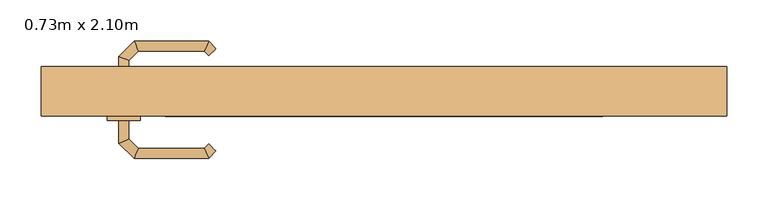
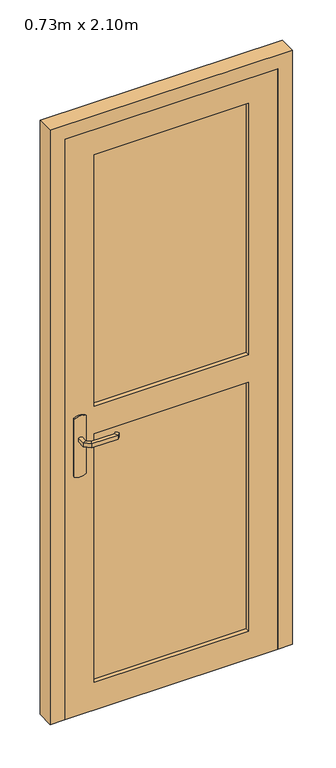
"""IFC4 building model written with IfcOpenShell, lengths in millimetres: door geometry, PVC Panneau Vitré - Traverse : 0.73m x 2.10m."""

from ifc_helpers import new_model, si_unit, point, frame, frame_2d, origin, place, context, project, spatial, polyline, circle_curve, ellipse_curve, trimmed, segment, composite_curve, outline, extrude, faceted_brep, source, transform, mapped, element, save
from ifc_brep_helpers import plane_surface, cylinder_surface, advanced_brep


def door_0_73m_x_2_10m_d47f2a6c(model_context):
    return source(origin(), model_context, "Body", "SolidModel", [
        advanced_brep(
        [(-309.0, -75.0, 993.0), (-309.0, -75.0, 1007.0), (-321.0, -75.0, 1007.0), (-321.0, -75.0, 993.0), (-309.0, -52.5147955, 993.0), (-309.0, -52.5147955, 1007.0), (-321.0, -47.5442327, 1007.0), (-321.0, -47.5442327, 993.0), (-297.5147186, -41.0295141, 993.0), (-297.5147186, -41.0295141, 1007.0), (-302.4852814, -29.0295141, 1007.0), (-302.4852814, -29.0295141, 993.0), (-217.4394977, -41.0295141, 993.0), (-217.4394977, -41.0295141, 1007.0), (-212.468935, -29.0295141, 1007.0), (-212.468935, -29.0295141, 993.0), (-212.1257892, -46.3432226, 993.0), (-203.6405078, -37.8579412, 993.0), (-203.6405078, -37.8579412, 1007.0), (-212.1257892, -46.3432226, 1007.0)],
        [
            (0, 1),
            (1, 2, circle_curve(frame((-315.0, -75.0, 986.9542278), z_axis=(0.0, -1.0, 0.0), x_axis=(-1.0, 0.0, 0.0)), 20.9244589)),
            (2, 3),
            (3, 0, circle_curve(frame((-315.0, -75.0, 1013.0457722), z_axis=(0.0, -1.0, 0.0), x_axis=(-1.0, 0.0, 0.0)), 20.9244589)),
            (0, 4),
            (4, 5),
            (5, 1),
            (5, 6, ellipse_curve(frame((-315.0, -50.0295141, 986.9542278), z_axis=(-0.38268343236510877, -0.9238795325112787, 0.0), x_axis=(0.9238795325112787, -0.3826834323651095, 0.0)), 22.6484711, 20.9244589)),
            (6, 2),
            (6, 7),
            (7, 3),
            (7, 4, ellipse_curve(frame((-315.0, -50.0295141, 1013.0457722), z_axis=(-0.38268343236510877, -0.9238795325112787, 0.0), x_axis=(0.9238795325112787, -0.3826834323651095, 0.0)), 22.6484711, 20.9244589)),
            (4, 8),
            (8, 9),
            (9, 5),
            (9, 10, ellipse_curve(frame((-300.0, -35.0295141, 986.9542278), z_axis=(-0.9238795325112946, -0.3826834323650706, 0.0), x_axis=(0.3826834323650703, -0.923879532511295, 0.0)), 22.6484711, 20.9244589)),
            (10, 6),
            (10, 11),
            (11, 7),
            (11, 8, ellipse_curve(frame((-300.0, -35.0295141, 1013.0457722), z_axis=(-0.9238795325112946, -0.3826834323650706, 0.0), x_axis=(0.3826834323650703, -0.923879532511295, 0.0)), 22.6484711, 20.9244589)),
            (8, 12),
            (12, 13),
            (13, 9),
            (13, 14, ellipse_curve(frame((-214.9542163, -35.0295141, 986.9542278), z_axis=(-0.9238795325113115, 0.38268343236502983, 0.0), x_axis=(-0.38268343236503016, -0.9238795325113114, 0.0)), 22.6484711, 20.9244589)),
            (14, 10),
            (14, 15),
            (15, 11),
            (15, 12, ellipse_curve(frame((-214.9542163, -35.0295141, 1013.0457722), z_axis=(-0.9238795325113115, 0.38268343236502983, 0.0), x_axis=(-0.38268343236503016, -0.9238795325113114, 0.0)), 22.6484711, 20.9244589)),
            (16, 17, circle_curve(frame((-207.8831485, -42.1005819, 1013.0457722), z_axis=(0.7071067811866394, -0.7071067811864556, 0.0), x_axis=(0.7071067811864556, 0.7071067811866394, 0.0)), 20.9244589)),
            (17, 18),
            (18, 19, circle_curve(frame((-207.8831485, -42.1005819, 986.9542278), z_axis=(0.7071067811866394, -0.7071067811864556, 0.0), x_axis=(0.7071067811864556, 0.7071067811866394, 0.0)), 20.9244589)),
            (19, 16),
            (12, 16),
            (19, 13),
            (18, 14),
            (17, 15),
        ],
        [
            plane_surface(frame((-324.2195445, -75.0, 1000.0), z_axis=(0.0, -1.0, 0.0), x_axis=(0.0, 0.0, 1.0))),
            plane_surface(frame((-309.0, -75.0, 993.0), z_axis=(1.0, 0.0, 0.0), x_axis=(0.0, 1.0, 0.0))),
            cylinder_surface(frame((-315.0, -75.0, 986.9542278), z_axis=(0.0, -1.0, 0.0), x_axis=(-1.0, 0.0, 0.0)), 20.9244589),
            plane_surface(frame((-321.0, -75.0, 1007.0), z_axis=(-1.0, 0.0, 0.0), x_axis=(0.0, 1.0, 0.0))),
            cylinder_surface(frame((-315.0, -75.0, 1013.0457722), z_axis=(0.0, -1.0, 0.0), x_axis=(-1.0, 0.0, 0.0)), 20.9244589),
            plane_surface(frame((-309.0, -52.5147955, 993.0), z_axis=(0.7071067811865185, -0.7071067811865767, 0.0), x_axis=(0.7071067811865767, 0.7071067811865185, 0.0))),
            cylinder_surface(frame((-315.0, -50.0295141, 986.9542278), z_axis=(-0.7071067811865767, -0.7071067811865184, 0.0), x_axis=(-0.7071067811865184, 0.7071067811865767, 0.0)), 20.9244589),
            plane_surface(frame((-321.0, -47.5442327, 1007.0), z_axis=(-0.7071067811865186, 0.7071067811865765, 0.0), x_axis=(0.7071067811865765, 0.7071067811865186, 0.0))),
            cylinder_surface(frame((-315.0, -50.0295141, 1013.0457722), z_axis=(-0.7071067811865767, -0.7071067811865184, 0.0), x_axis=(-0.7071067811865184, 0.7071067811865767, 0.0)), 20.9244589),
            plane_surface(frame((-297.5147186, -41.0295141, 993.0), z_axis=(0.0, -1.0, 0.0), x_axis=(1.0, 0.0, 0.0))),
            cylinder_surface(frame((-300.0, -35.0295141, 986.9542278), z_axis=(-1.0, 0.0, 0.0), x_axis=(0.0, 1.0, 0.0)), 20.9244589),
            plane_surface(frame((-302.4852814, -29.0295141, 1007.0), z_axis=(0.0, 1.0, 0.0), x_axis=(1.0, 0.0, 0.0))),
            cylinder_surface(frame((-300.0, -35.0295141, 1013.0457722), z_axis=(-1.0, 0.0, 0.0), x_axis=(0.0, 1.0, 0.0)), 20.9244589),
            plane_surface(frame((-207.8831485, -42.1005819, 990.7804555), z_axis=(0.7071067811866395, -0.7071067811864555, 0.0), x_axis=(0.7071067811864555, 0.7071067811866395, 0.0))),
            plane_surface(frame((-217.4394977, -41.0295141, 993.0), z_axis=(-0.7071067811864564, -0.7071067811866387, 0.0), x_axis=(0.7071067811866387, -0.7071067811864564, 0.0))),
            cylinder_surface(frame((-214.9542163, -35.0295141, 986.9542278), z_axis=(-0.7071067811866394, 0.7071067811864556, 0.0), x_axis=(0.7071067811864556, 0.7071067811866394, 0.0)), 20.9244589),
            plane_surface(frame((-212.468935, -29.0295141, 1007.0), z_axis=(0.707106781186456, 0.707106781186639, 0.0), x_axis=(0.707106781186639, -0.707106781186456, 0.0))),
            cylinder_surface(frame((-214.9542163, -35.0295141, 1013.0457722), z_axis=(-0.7071067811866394, 0.7071067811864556, 0.0), x_axis=(0.7071067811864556, 0.7071067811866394, 0.0)), 20.9244589),
        ],
        [
            (0, [[1, 2, 3, 4]]),
            (1, [[-1, 5, 6, 7]]),
            (2, [[-2, -7, 8, 9]]),
            (3, [[-3, -9, 10, 11]]),
            (4, [[-4, -11, 12, -5]]),
            (5, [[-6, 13, 14, 15]]),
            (6, [[-8, -15, 16, 17]]),
            (7, [[-10, -17, 18, 19]]),
            (8, [[-12, -19, 20, -13]]),
            (9, [[-14, 21, 22, 23]]),
            (10, [[-16, -23, 24, 25]]),
            (11, [[-18, -25, 26, 27]]),
            (12, [[-20, -27, 28, -21]]),
            (13, [[29, 30, 31, 32]]),
            (14, [[-22, 33, -32, 34]]),
            (15, [[-24, -34, -31, 35]]),
            (16, [[-26, -35, -30, 36]]),
            (17, [[-28, -36, -29, -33]]),
        ],
    ),
        advanced_brep(
        [(-321.0, -125.0, 1007.0), (-309.0, -125.0, 1007.0), (-309.0, -125.0, 993.0), (-321.0, -125.0, 993.0), (-321.0, -152.6509507, 1007.0), (-309.0, -147.680388, 1007.0), (-309.0, -147.680388, 993.0), (-321.0, -152.6509507, 993.0), (-302.62279, -171.0281607, 1007.0), (-297.6522273, -159.0281607, 1007.0), (-297.6522273, -159.0281607, 993.0), (-302.62279, -171.0281607, 993.0), (-212.496078, -171.0281607, 1007.0), (-217.4666408, -159.0281607, 1007.0), (-217.4666408, -159.0281607, 993.0), (-212.496078, -171.0281607, 993.0), (-203.6676509, -162.1997336, 1007.0), (-203.6676509, -162.1997336, 993.0), (-212.1529323, -153.7144522, 993.0), (-212.1529323, -153.7144522, 1007.0)],
        [
            (0, 1, circle_curve(frame((-315.0, -125.0, 986.9542278), z_axis=(0.0, 1.0, 0.0), x_axis=(1.0, 0.0, 0.0)), 20.9244589)),
            (1, 2),
            (2, 3, circle_curve(frame((-315.0, -125.0, 1013.0457722), z_axis=(0.0, 1.0, 0.0), x_axis=(1.0, 0.0, 0.0)), 20.9244589)),
            (3, 0),
            (0, 4),
            (4, 5, ellipse_curve(frame((-315.0, -150.1656693, 986.9542278), z_axis=(-0.3826834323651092, 0.9238795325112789, 0.0), x_axis=(0.9238795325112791, 0.3826834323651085, 0.0)), 22.6484711, 20.9244589)),
            (5, 1),
            (5, 6),
            (6, 2),
            (6, 7, ellipse_curve(frame((-315.0, -150.1656693, 1013.0457722), z_axis=(-0.3826834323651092, 0.9238795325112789, 0.0), x_axis=(0.9238795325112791, 0.3826834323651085, 0.0)), 22.6484711, 20.9244589)),
            (7, 3),
            (7, 4),
            (4, 8),
            (8, 9, ellipse_curve(frame((-300.1375086, -165.0281607, 986.9542278), z_axis=(-0.923879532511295, 0.38268343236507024, 0.0), x_axis=(0.3826834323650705, 0.9238795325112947, 0.0)), 22.6484711, 20.9244589)),
            (9, 5),
            (9, 10),
            (10, 6),
            (10, 11, ellipse_curve(frame((-300.1375086, -165.0281607, 1013.0457722), z_axis=(-0.923879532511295, 0.38268343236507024, 0.0), x_axis=(0.3826834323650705, 0.9238795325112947, 0.0)), 22.6484711, 20.9244589)),
            (11, 7),
            (11, 8),
            (8, 12),
            (12, 13, ellipse_curve(frame((-214.9813594, -165.0281607, 986.9542278), z_axis=(-0.9238795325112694, -0.38268343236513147, 0.0), x_axis=(-0.38268343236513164, 0.9238795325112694, 0.0)), 22.6484711, 20.9244589)),
            (13, 9),
            (13, 14),
            (14, 10),
            (14, 15, ellipse_curve(frame((-214.9813594, -165.0281607, 1013.0457722), z_axis=(-0.9238795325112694, -0.38268343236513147, 0.0), x_axis=(-0.38268343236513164, 0.9238795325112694, 0.0)), 22.6484711, 20.9244589)),
            (15, 11),
            (15, 12),
            (16, 17),
            (17, 18, circle_curve(frame((-207.9102916, -157.9570929, 1013.0457722), z_axis=(0.7071067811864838, 0.7071067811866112, 0.0), x_axis=(-0.7071067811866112, 0.7071067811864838, 0.0)), 20.9244589)),
            (18, 19),
            (19, 16, circle_curve(frame((-207.9102916, -157.9570929, 986.9542278), z_axis=(0.7071067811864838, 0.7071067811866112, 0.0), x_axis=(-0.7071067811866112, 0.7071067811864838, 0.0)), 20.9244589)),
            (12, 16),
            (19, 13),
            (18, 14),
            (17, 15),
        ],
        [
            plane_surface(frame((-324.2195445, -125.0, 1000.0), z_axis=(0.0, 1.0, 0.0), x_axis=(0.0, 0.0, -1.0))),
            cylinder_surface(frame((-315.0, -125.0, 986.9542278), z_axis=(0.0, 1.0, 0.0), x_axis=(1.0, 0.0, 0.0)), 20.9244589),
            plane_surface(frame((-309.0, -125.0, 1007.0), z_axis=(1.0, 0.0, 0.0), x_axis=(0.0, -1.0, 0.0))),
            cylinder_surface(frame((-315.0, -125.0, 1013.0457722), z_axis=(0.0, 1.0, 0.0), x_axis=(1.0, 0.0, 0.0)), 20.9244589),
            plane_surface(frame((-321.0, -125.0, 993.0), z_axis=(-1.0, 0.0, 0.0), x_axis=(0.0, -1.0, 0.0))),
            cylinder_surface(frame((-315.0, -150.1656693, 986.9542278), z_axis=(-0.7071067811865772, 0.7071067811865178, 0.0), x_axis=(0.7071067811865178, 0.7071067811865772, 0.0)), 20.9244589),
            plane_surface(frame((-309.0, -147.680388, 1007.0), z_axis=(0.707106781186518, 0.707106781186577, 0.0), x_axis=(0.707106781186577, -0.707106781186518, 0.0))),
            cylinder_surface(frame((-315.0, -150.1656693, 1013.0457722), z_axis=(-0.7071067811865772, 0.7071067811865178, 0.0), x_axis=(0.7071067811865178, 0.7071067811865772, 0.0)), 20.9244589),
            plane_surface(frame((-321.0, -152.6509507, 993.0), z_axis=(-0.707106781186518, -0.7071067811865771, 0.0), x_axis=(0.7071067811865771, -0.707106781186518, 0.0))),
            cylinder_surface(frame((-300.1375086, -165.0281607, 986.9542278), z_axis=(-1.0, 0.0, 0.0), x_axis=(0.0, 1.0, 0.0)), 20.9244589),
            plane_surface(frame((-297.6522273, -159.0281607, 1007.0), z_axis=(0.0, 1.0, 0.0), x_axis=(1.0, 0.0, 0.0))),
            cylinder_surface(frame((-300.1375086, -165.0281607, 1013.0457722), z_axis=(-1.0, 0.0, 0.0), x_axis=(0.0, 1.0, 0.0)), 20.9244589),
            plane_surface(frame((-302.62279, -171.0281607, 993.0), z_axis=(0.0, -1.0, 0.0), x_axis=(1.0, 0.0, 0.0))),
            plane_surface(frame((-207.9102916, -157.9570929, 1009.2195445), z_axis=(0.7071067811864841, 0.7071067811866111, 0.0), x_axis=(0.7071067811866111, -0.7071067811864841, 0.0))),
            cylinder_surface(frame((-214.9813594, -165.0281607, 986.9542278), z_axis=(-0.7071067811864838, -0.7071067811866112, 0.0), x_axis=(-0.7071067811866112, 0.7071067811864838, 0.0)), 20.9244589),
            plane_surface(frame((-217.4666408, -159.0281607, 1007.0), z_axis=(-0.7071067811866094, 0.7071067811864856, 0.0), x_axis=(0.7071067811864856, 0.7071067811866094, 0.0))),
            cylinder_surface(frame((-214.9813594, -165.0281607, 1013.0457722), z_axis=(-0.7071067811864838, -0.7071067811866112, 0.0), x_axis=(-0.7071067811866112, 0.7071067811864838, 0.0)), 20.9244589),
            plane_surface(frame((-212.496078, -171.0281607, 993.0), z_axis=(0.7071067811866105, -0.7071067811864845, 0.0), x_axis=(0.7071067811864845, 0.7071067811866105, 0.0))),
        ],
        [
            (0, [[1, 2, 3, 4]]),
            (1, [[-1, 5, 6, 7]]),
            (2, [[-2, -7, 8, 9]]),
            (3, [[-3, -9, 10, 11]]),
            (4, [[-4, -11, 12, -5]]),
            (5, [[-6, 13, 14, 15]]),
            (6, [[-8, -15, 16, 17]]),
            (7, [[-10, -17, 18, 19]]),
            (8, [[-12, -19, 20, -13]]),
            (9, [[-14, 21, 22, 23]]),
            (10, [[-16, -23, 24, 25]]),
            (11, [[-18, -25, 26, 27]]),
            (12, [[-20, -27, 28, -21]]),
            (13, [[29, 30, 31, 32]]),
            (14, [[-22, 33, -32, 34]]),
            (15, [[-24, -34, -31, 35]]),
            (16, [[-26, -35, -30, 36]]),
            (17, [[-28, -36, -29, -33]]),
        ],
    ),
        extrude(outline(composite_curve([segment(trimmed(circle_curve(frame_2d((1045.3589838, -315.0)), 40.0), [point((1080.0, -295.0))], [point((1080.0, -335.0))], False, "CARTESIAN"), True, "CONTINUOUS"), segment(polyline([(1080.0, -335.0), (870.0, -335.0)]), True, "CONTINUOUS"), segment(trimmed(circle_curve(frame_2d((904.6410162, -315.0)), 40.0), [point((870.0, -335.0))], [point((870.0, -295.0))], False, "CARTESIAN"), True, "CONTINUOUS"), segment(polyline([(870.0, -295.0), (1080.0, -295.0)]), True, "CONTINUOUS")], self_intersect=False)), frame((0.0, -80.0, 0.0), z_axis=(0.0, 1.0, 0.0), x_axis=(0.0, 0.0, 1.0)), (0.0, 0.0, 1.0), 5.0),
        extrude(outline(composite_curve([segment(trimmed(circle_curve(frame_2d((904.6410162, -315.0)), 40.0), [point((870.0, -335.0))], [point((870.0, -295.0))], False, "CARTESIAN"), True, "CONTINUOUS"), segment(polyline([(870.0, -295.0), (1080.0, -295.0)]), True, "CONTINUOUS"), segment(trimmed(circle_curve(frame_2d((1045.3589838, -315.0)), 40.0), [point((1080.0, -295.0))], [point((1080.0, -335.0))], False, "CARTESIAN"), True, "CONTINUOUS"), segment(polyline([(1080.0, -335.0), (870.0, -335.0)]), True, "CONTINUOUS")], self_intersect=False)), frame((0.0, -125.0, 0.0), z_axis=(0.0, 1.0, 0.0), x_axis=(0.0, 0.0, 1.0)), (0.0, 0.0, 1.0), 5.0),
        faceted_brep([(-415.0, -120.0, 0.0), (-415.0, -60.0, 0.0), (-350.0, -60.0, 0.0), (-350.0, -80.0, 0.0), (-365.0, -80.0, 0.0), (-365.0, -120.0, 0.0), (-415.0, -120.0, 2150.0), (-415.0, -60.0, 2150.0), (415.0, -60.0, 2150.0), (415.0, -60.0, 0.0), (350.0, -60.0, 0.0), (350.0, -60.0, 2085.0), (-350.0, -60.0, 2085.0), (-350.0, -80.0, 2085.0), (350.0, -80.0, 2085.0), (350.0, -80.0, 0.0), (365.0, -80.0, 0.0), (365.0, -80.0, 2100.0), (-365.0, -80.0, 2100.0), (-365.0, -120.0, 2100.0), (365.0, -120.0, 2100.0), (365.0, -120.0, 0.0), (415.0, -120.0, 0.0), (415.0, -120.0, 2150.0)], [[[0, 1, 2, 3, 4, 5]], [[1, 0, 6, 7]], [[2, 1, 7, 8, 9, 10, 11, 12]], [[3, 2, 12, 13]], [[4, 3, 13, 14, 15, 16, 17, 18]], [[5, 4, 18, 19]], [[0, 5, 19, 20, 21, 22, 23, 6]], [[7, 6, 23, 8]], [[13, 12, 11, 14]], [[19, 18, 17, 20]], [[22, 21, 16, 15, 10, 9]], [[8, 23, 22, 9]], [[14, 11, 10, 15]], [[20, 17, 16, 21]]]),
        extrude(outline(polyline([(265.0, -105.0), (-265.0, -105.0), (-265.0, -95.0), (265.0, -95.0), (265.0, -105.0)])), frame((0.0, 0.0, 1100.0), z_axis=(0.0, 0.0, 1.0), x_axis=(1.0, 0.0, 0.0)), (0.0, 0.0, 1.0), 910.0),
        extrude(outline(polyline([(265.0, -105.0), (-265.0, -105.0), (-265.0, -95.0), (265.0, -95.0), (265.0, -105.0)])), frame((0.0, 0.0, 100.0), z_axis=(0.0, 0.0, 1.0), x_axis=(1.0, 0.0, 0.0)), (0.0, 0.0, 1.0), 900.0),
        extrude(outline(polyline([(2100.0, -365.0), (0.0, -365.0), (0.0, 365.0), (2100.0, 365.0), (2100.0, -365.0)]), holes=[polyline([(2010.0, 265.0), (1100.0, 265.0), (1100.0, -265.0), (2010.0, -265.0), (2010.0, 265.0)]), polyline([(100.0, 265.0), (100.0, -265.0), (1000.0, -265.0), (1000.0, 265.0), (100.0, 265.0)])]), frame((0.0, -120.0, 0.0), z_axis=(0.0, 1.0, 0.0), x_axis=(0.0, 0.0, 1.0)), (0.0, 0.0, 1.0), 40.0),
    ])


if __name__ == "__main__":
    model = new_model("IFC4")
    model_context = context("Model", 3, world=origin())
    ifc_project = project(units=[si_unit("LENGTHUNIT", "METRE", prefix="MILLI")], contexts=[model_context])
    site = spatial("IfcSite", under=ifc_project)
    building = spatial("IfcBuilding", under=site)
    placement = place(None, origin())
    door_0_73m_x_2_10m_shape = door_0_73m_x_2_10m_d47f2a6c(model_context)
    element("IfcDoor", 1, ObjectType="PVC Panneau Vitré - Traverse : 0.73m x 2.10m", at=placement, inside=building, context=model_context, shape_type="MappedRepresentation", body=[
        mapped(door_0_73m_x_2_10m_shape, transform((0.0, 0.0, 0.0), x_axis=(1.0, 0.0, 0.0), y_axis=(0.0, 1.0, 0.0), z_axis=(0.0, 0.0, 1.0))),
    ])
    save(model, "model.ifc")
